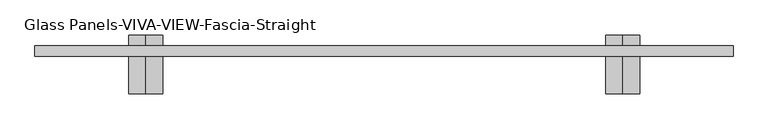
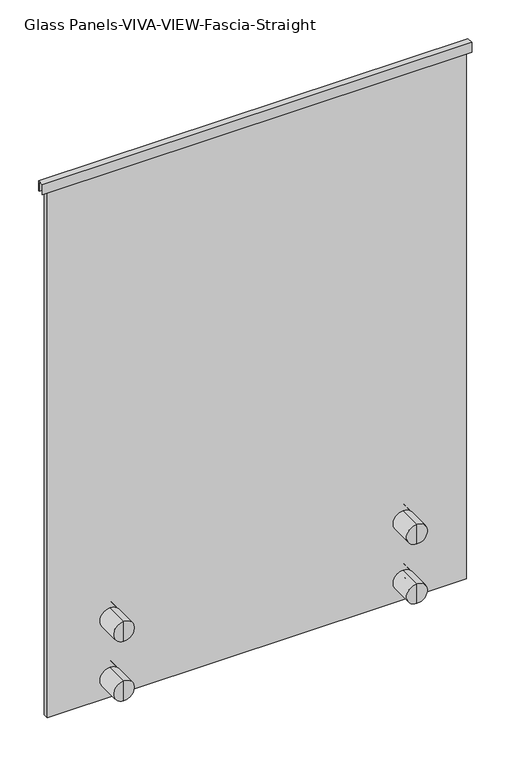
"""IFC4 building model written with IfcOpenShell, lengths in millimetres: railing geometry, Glass Panels-VIVA-VIEW-Fascia-Straight."""

from ifc_helpers import new_model, si_unit, frame, origin, place, context, project, spatial, polyline, circle_curve, outline, extrude, source, transform, mapped, element, save
from ifc_brep_helpers import plane_surface, cylinder_surface, advanced_brep


def glass_panels_viva_view_fascia_straight_26923121(model_context):
    return source(origin(), model_context, "Body", "SolidModel", [
        extrude(outline(polyline([(-1461.4844585, 4140.2), (-1445.6094585, 4140.2), (-1445.6094585, 4114.8), (-1447.1969585, 4114.8), (-1447.1969585, 4138.6125), (-1459.8969585, 4138.6125), (-1459.8969585, 4114.8), (-1461.4844585, 4114.8), (-1461.4844585, 4140.2)])), frame((37756.3266433, 0.0, 0.0), z_axis=(1.0, 0.0, 0.0), x_axis=(0.0, 1.0, 0.0)), (0.0, 0.0, 1.0), 1041.4),
        advanced_brep(
        [(37921.8096899, -1429.7347524, 2794.0), (37921.8096899, -1429.7347524, 2819.4), (37921.8096899, -1429.7347524, 2844.8), (37921.8096899, -1447.1972524, 2794.0), (37921.8096899, -1447.1972524, 2844.8), (37921.8096899, -1447.1972524, 2813.685), (37921.8096899, -1447.1972524, 2825.115), (37921.8096899, -1459.8972524, 2813.685), (37921.8096899, -1459.8972524, 2825.115), (37921.8096899, -1459.8972524, 2794.0), (37921.8096899, -1459.8972524, 2844.8), (37921.8096899, -1517.0471054, 2794.0), (37921.8096899, -1517.0471054, 2844.8), (37921.8096899, -1517.0471054, 2819.4)],
        [
            (0, 1),
            (1, 2),
            (2, 0, circle_curve(frame((37921.8096899, -1429.7347524, 2819.4), z_axis=(0.0, 1.0, 0.0), x_axis=(0.0, 0.0, 1.0)), 25.4)),
            (0, 2, circle_curve(frame((37921.8096899, -1429.7347524, 2819.4), z_axis=(0.0, 1.0, 0.0), x_axis=(0.0, 0.0, 1.0)), 25.4)),
            (3, 0),
            (2, 4),
            (4, 3, circle_curve(frame((37921.8096899, -1447.1972524, 2819.4), z_axis=(0.0, 1.0, 0.0), x_axis=(0.0, 0.0, 1.0)), 25.4)),
            (3, 4, circle_curve(frame((37921.8096899, -1447.1972524, 2819.4), z_axis=(0.0, 1.0, 0.0), x_axis=(0.0, 0.0, 1.0)), 25.4)),
            (5, 3),
            (4, 6),
            (6, 5, circle_curve(frame((37921.8096899, -1447.1972524, 2819.4), z_axis=(0.0, 1.0, 0.0), x_axis=(0.0, 0.0, 1.0)), 5.715)),
            (5, 6, circle_curve(frame((37921.8096899, -1447.1972524, 2819.4), z_axis=(0.0, 1.0, 0.0), x_axis=(0.0, 0.0, 1.0)), 5.715)),
            (7, 5),
            (6, 8),
            (8, 7, circle_curve(frame((37921.8096899, -1459.8972524, 2819.4), z_axis=(0.0, 1.0, 0.0), x_axis=(0.0, 0.0, 1.0)), 5.715)),
            (7, 8, circle_curve(frame((37921.8096899, -1459.8972524, 2819.4), z_axis=(0.0, 1.0, 0.0), x_axis=(0.0, 0.0, 1.0)), 5.715)),
            (9, 7),
            (8, 10),
            (10, 9, circle_curve(frame((37921.8096899, -1459.8972524, 2819.4), z_axis=(0.0, 1.0, 0.0), x_axis=(0.0, 0.0, 1.0)), 25.4)),
            (9, 10, circle_curve(frame((37921.8096899, -1459.8972524, 2819.4), z_axis=(0.0, 1.0, 0.0), x_axis=(0.0, 0.0, 1.0)), 25.4)),
            (11, 9),
            (10, 12),
            (12, 11, circle_curve(frame((37921.8096899, -1517.0471054, 2819.4), z_axis=(0.0, 1.0, 0.0), x_axis=(0.0, 0.0, 1.0)), 25.4)),
            (11, 12, circle_curve(frame((37921.8096899, -1517.0471054, 2819.4), z_axis=(0.0, 1.0, 0.0), x_axis=(0.0, 0.0, 1.0)), 25.4)),
            (13, 11),
            (12, 13),
        ],
        [
            plane_surface(frame((37921.8096899, -1429.7347524, 2819.4), z_axis=(0.0, 1.0, 0.0), x_axis=(0.0, 0.0, 1.0))),
            cylinder_surface(frame((37921.8096899, -1361.4721054, 2819.4), z_axis=(0.0, -1.0, 0.0), x_axis=(0.0, 0.0, 1.0)), 25.4),
            plane_surface(frame((37921.8096899, -1447.1972524, 2819.4), z_axis=(0.0, -1.0, 0.0), x_axis=(0.0, 0.0, 1.0))),
            cylinder_surface(frame((37921.8096899, -1361.4721054, 2819.4), z_axis=(0.0, -1.0, 0.0), x_axis=(0.0, 0.0, 1.0)), 5.715),
            plane_surface(frame((37921.8096899, -1459.8972524, 2819.4), z_axis=(0.0, 1.0, 0.0), x_axis=(0.0, 0.0, 1.0))),
            plane_surface(frame((37921.8096899, -1517.0471054, 2819.4), z_axis=(0.0, -1.0, 0.0), x_axis=(0.0, 0.0, 1.0))),
        ],
        [
            (0, [[1, 2, 3]]),
            (0, [[-2, -1, 4]]),
            (1, [[5, -3, 6, 7]]),
            (1, [[-6, -4, -5, 8]]),
            (2, [[9, -7, 10, 11]]),
            (2, [[-10, -8, -9, 12]]),
            (3, [[13, -11, 14, 15]]),
            (3, [[-14, -12, -13, 16]]),
            (4, [[17, -15, 18, 19]]),
            (4, [[-18, -16, -17, 20]]),
            (1, [[21, -19, 22, 23]]),
            (1, [[-22, -20, -21, 24]]),
            (5, [[25, -23, 26]]),
            (5, [[-26, -24, -25]]),
        ],
    ),
        advanced_brep(
        [(37921.8096899, -1447.1972524, 2966.085), (37921.8096899, -1447.1972524, 2946.4), (37921.8096899, -1447.1972524, 2997.2), (37921.8096899, -1447.1972524, 2977.515), (37921.8096899, -1459.8972524, 2966.085), (37921.8096899, -1459.8972524, 2977.515), (37921.8096899, -1459.8972524, 2946.4), (37921.8096899, -1459.8972524, 2997.2), (37921.8096899, -1517.0471054, 2946.4), (37921.8096899, -1517.0471054, 2997.2), (37921.8096899, -1517.0471054, 2971.8), (37921.8096899, -1429.7347524, 2946.4), (37921.8096899, -1429.7347524, 2971.8), (37921.8096899, -1429.7347524, 2997.2)],
        [
            (0, 1),
            (1, 2, circle_curve(frame((37921.8096899, -1447.1972524, 2971.8), z_axis=(0.0, -1.0, 0.0), x_axis=(0.0, 0.0, 1.0)), 25.4)),
            (2, 3),
            (3, 0, circle_curve(frame((37921.8096899, -1447.1972524, 2971.8), z_axis=(0.0, 1.0, 0.0), x_axis=(0.0, 0.0, 1.0)), 5.715)),
            (2, 1, circle_curve(frame((37921.8096899, -1447.1972524, 2971.8), z_axis=(0.0, -1.0, 0.0), x_axis=(0.0, 0.0, 1.0)), 25.4)),
            (0, 3, circle_curve(frame((37921.8096899, -1447.1972524, 2971.8), z_axis=(0.0, 1.0, 0.0), x_axis=(0.0, 0.0, 1.0)), 5.715)),
            (4, 0),
            (3, 5),
            (5, 4, circle_curve(frame((37921.8096899, -1459.8972524, 2971.8), z_axis=(0.0, 1.0, 0.0), x_axis=(0.0, 0.0, 1.0)), 5.715)),
            (4, 5, circle_curve(frame((37921.8096899, -1459.8972524, 2971.8), z_axis=(0.0, 1.0, 0.0), x_axis=(0.0, 0.0, 1.0)), 5.715)),
            (6, 4),
            (5, 7),
            (7, 6, circle_curve(frame((37921.8096899, -1459.8972524, 2971.8), z_axis=(0.0, 1.0, 0.0), x_axis=(0.0, 0.0, 1.0)), 25.4)),
            (6, 7, circle_curve(frame((37921.8096899, -1459.8972524, 2971.8), z_axis=(0.0, 1.0, 0.0), x_axis=(0.0, 0.0, 1.0)), 25.4)),
            (8, 6),
            (7, 9),
            (9, 8, circle_curve(frame((37921.8096899, -1517.0471054, 2971.8), z_axis=(0.0, 1.0, 0.0), x_axis=(0.0, 0.0, 1.0)), 25.4)),
            (8, 9, circle_curve(frame((37921.8096899, -1517.0471054, 2971.8), z_axis=(0.0, 1.0, 0.0), x_axis=(0.0, 0.0, 1.0)), 25.4)),
            (10, 8),
            (9, 10),
            (11, 12),
            (12, 13),
            (13, 11, circle_curve(frame((37921.8096899, -1429.7347524, 2971.8), z_axis=(0.0, 1.0, 0.0), x_axis=(0.0, 0.0, 1.0)), 25.4)),
            (11, 13, circle_curve(frame((37921.8096899, -1429.7347524, 2971.8), z_axis=(0.0, 1.0, 0.0), x_axis=(0.0, 0.0, 1.0)), 25.4)),
            (1, 11),
            (13, 2),
        ],
        [
            plane_surface(frame((37921.8096899, -1447.1972524, 2971.8), z_axis=(0.0, -1.0, 0.0), x_axis=(0.0, 0.0, 1.0))),
            cylinder_surface(frame((37921.8096899, -1361.4721054, 2971.8), z_axis=(0.0, -1.0, 0.0), x_axis=(0.0, 0.0, 1.0)), 5.715),
            plane_surface(frame((37921.8096899, -1459.8972524, 2971.8), z_axis=(0.0, 1.0, 0.0), x_axis=(0.0, 0.0, 1.0))),
            cylinder_surface(frame((37921.8096899, -1361.4721054, 2971.8), z_axis=(0.0, -1.0, 0.0), x_axis=(0.0, 0.0, 1.0)), 25.4),
            plane_surface(frame((37921.8096899, -1517.0471054, 2971.8), z_axis=(0.0, -1.0, 0.0), x_axis=(0.0, 0.0, 1.0))),
            plane_surface(frame((37921.8096899, -1429.7347524, 2971.8), z_axis=(0.0, 1.0, 0.0), x_axis=(0.0, 0.0, 1.0))),
        ],
        [
            (0, [[1, 2, 3, 4]]),
            (0, [[-3, 5, -1, 6]]),
            (1, [[7, -4, 8, 9]]),
            (1, [[-8, -6, -7, 10]]),
            (2, [[11, -9, 12, 13]]),
            (2, [[-12, -10, -11, 14]]),
            (3, [[15, -13, 16, 17]]),
            (3, [[-16, -14, -15, 18]]),
            (4, [[19, -17, 20]]),
            (4, [[-20, -18, -19]]),
            (5, [[21, 22, 23]]),
            (5, [[-22, -21, 24]]),
            (3, [[25, -23, 26, -2]]),
            (3, [[-26, -24, -25, -5]]),
        ],
    ),
        advanced_brep(
        [(38633.0096899, -1429.7347524, 2794.0), (38633.0096899, -1429.7347524, 2819.4), (38633.0096899, -1429.7347524, 2844.8), (38633.0096899, -1447.1972524, 2794.0), (38633.0096899, -1447.1972524, 2844.8), (38633.0096899, -1447.1972524, 2813.685), (38633.0096899, -1447.1972524, 2825.115), (38633.0096899, -1459.8972524, 2813.685), (38633.0096899, -1459.8972524, 2825.115), (38633.0096899, -1459.8972524, 2794.0), (38633.0096899, -1459.8972524, 2844.8), (38633.0096899, -1517.0471054, 2794.0), (38633.0096899, -1517.0471054, 2844.8), (38633.0096899, -1517.0471054, 2819.4)],
        [
            (0, 1),
            (1, 2),
            (2, 0, circle_curve(frame((38633.0096899, -1429.7347524, 2819.4), z_axis=(0.0, 1.0, 0.0), x_axis=(0.0, 0.0, 1.0)), 25.4)),
            (0, 2, circle_curve(frame((38633.0096899, -1429.7347524, 2819.4), z_axis=(0.0, 1.0, 0.0), x_axis=(0.0, 0.0, 1.0)), 25.4)),
            (3, 0),
            (2, 4),
            (4, 3, circle_curve(frame((38633.0096899, -1447.1972524, 2819.4), z_axis=(0.0, 1.0, 0.0), x_axis=(0.0, 0.0, 1.0)), 25.4)),
            (3, 4, circle_curve(frame((38633.0096899, -1447.1972524, 2819.4), z_axis=(0.0, 1.0, 0.0), x_axis=(0.0, 0.0, 1.0)), 25.4)),
            (5, 3),
            (4, 6),
            (6, 5, circle_curve(frame((38633.0096899, -1447.1972524, 2819.4), z_axis=(0.0, 1.0, 0.0), x_axis=(0.0, 0.0, 1.0)), 5.715)),
            (5, 6, circle_curve(frame((38633.0096899, -1447.1972524, 2819.4), z_axis=(0.0, 1.0, 0.0), x_axis=(0.0, 0.0, 1.0)), 5.715)),
            (7, 5),
            (6, 8),
            (8, 7, circle_curve(frame((38633.0096899, -1459.8972524, 2819.4), z_axis=(0.0, 1.0, 0.0), x_axis=(0.0, 0.0, 1.0)), 5.715)),
            (7, 8, circle_curve(frame((38633.0096899, -1459.8972524, 2819.4), z_axis=(0.0, 1.0, 0.0), x_axis=(0.0, 0.0, 1.0)), 5.715)),
            (9, 7),
            (8, 10),
            (10, 9, circle_curve(frame((38633.0096899, -1459.8972524, 2819.4), z_axis=(0.0, 1.0, 0.0), x_axis=(0.0, 0.0, 1.0)), 25.4)),
            (9, 10, circle_curve(frame((38633.0096899, -1459.8972524, 2819.4), z_axis=(0.0, 1.0, 0.0), x_axis=(0.0, 0.0, 1.0)), 25.4)),
            (11, 9),
            (10, 12),
            (12, 11, circle_curve(frame((38633.0096899, -1517.0471054, 2819.4), z_axis=(0.0, 1.0, 0.0), x_axis=(0.0, 0.0, 1.0)), 25.4)),
            (11, 12, circle_curve(frame((38633.0096899, -1517.0471054, 2819.4), z_axis=(0.0, 1.0, 0.0), x_axis=(0.0, 0.0, 1.0)), 25.4)),
            (13, 11),
            (12, 13),
        ],
        [
            plane_surface(frame((38633.0096899, -1429.7347524, 2819.4), z_axis=(0.0, 1.0, 0.0), x_axis=(0.0, 0.0, 1.0))),
            cylinder_surface(frame((38633.0096899, -1361.4721054, 2819.4), z_axis=(0.0, -1.0, 0.0), x_axis=(0.0, 0.0, 1.0)), 25.4),
            plane_surface(frame((38633.0096899, -1447.1972524, 2819.4), z_axis=(0.0, -1.0, 0.0), x_axis=(0.0, 0.0, 1.0))),
            cylinder_surface(frame((38633.0096899, -1361.4721054, 2819.4), z_axis=(0.0, -1.0, 0.0), x_axis=(0.0, 0.0, 1.0)), 5.715),
            plane_surface(frame((38633.0096899, -1459.8972524, 2819.4), z_axis=(0.0, 1.0, 0.0), x_axis=(0.0, 0.0, 1.0))),
            plane_surface(frame((38633.0096899, -1517.0471054, 2819.4), z_axis=(0.0, -1.0, 0.0), x_axis=(0.0, 0.0, 1.0))),
        ],
        [
            (0, [[1, 2, 3]]),
            (0, [[-2, -1, 4]]),
            (1, [[5, -3, 6, 7]]),
            (1, [[-6, -4, -5, 8]]),
            (2, [[9, -7, 10, 11]]),
            (2, [[-10, -8, -9, 12]]),
            (3, [[13, -11, 14, 15]]),
            (3, [[-14, -12, -13, 16]]),
            (4, [[17, -15, 18, 19]]),
            (4, [[-18, -16, -17, 20]]),
            (1, [[21, -19, 22, 23]]),
            (1, [[-22, -20, -21, 24]]),
            (5, [[25, -23, 26]]),
            (5, [[-26, -24, -25]]),
        ],
    ),
        advanced_brep(
        [(38633.0096899, -1447.1972524, 2966.085), (38633.0096899, -1447.1972524, 2946.4), (38633.0096899, -1447.1972524, 2997.2), (38633.0096899, -1447.1972524, 2977.515), (38633.0096899, -1459.8972524, 2966.085), (38633.0096899, -1459.8972524, 2977.515), (38633.0096899, -1459.8972524, 2946.4), (38633.0096899, -1459.8972524, 2997.2), (38633.0096899, -1517.0471054, 2946.4), (38633.0096899, -1517.0471054, 2997.2), (38633.0096899, -1517.0471054, 2971.8), (38633.0096899, -1429.7347524, 2946.4), (38633.0096899, -1429.7347524, 2971.8), (38633.0096899, -1429.7347524, 2997.2)],
        [
            (0, 1),
            (1, 2, circle_curve(frame((38633.0096899, -1447.1972524, 2971.8), z_axis=(0.0, -1.0, 0.0), x_axis=(0.0, 0.0, 1.0)), 25.4)),
            (2, 3),
            (3, 0, circle_curve(frame((38633.0096899, -1447.1972524, 2971.8), z_axis=(0.0, 1.0, 0.0), x_axis=(0.0, 0.0, 1.0)), 5.715)),
            (2, 1, circle_curve(frame((38633.0096899, -1447.1972524, 2971.8), z_axis=(0.0, -1.0, 0.0), x_axis=(0.0, 0.0, 1.0)), 25.4)),
            (0, 3, circle_curve(frame((38633.0096899, -1447.1972524, 2971.8), z_axis=(0.0, 1.0, 0.0), x_axis=(0.0, 0.0, 1.0)), 5.715)),
            (4, 0),
            (3, 5),
            (5, 4, circle_curve(frame((38633.0096899, -1459.8972524, 2971.8), z_axis=(0.0, 1.0, 0.0), x_axis=(0.0, 0.0, 1.0)), 5.715)),
            (4, 5, circle_curve(frame((38633.0096899, -1459.8972524, 2971.8), z_axis=(0.0, 1.0, 0.0), x_axis=(0.0, 0.0, 1.0)), 5.715)),
            (6, 4),
            (5, 7),
            (7, 6, circle_curve(frame((38633.0096899, -1459.8972524, 2971.8), z_axis=(0.0, 1.0, 0.0), x_axis=(0.0, 0.0, 1.0)), 25.4)),
            (6, 7, circle_curve(frame((38633.0096899, -1459.8972524, 2971.8), z_axis=(0.0, 1.0, 0.0), x_axis=(0.0, 0.0, 1.0)), 25.4)),
            (8, 6),
            (7, 9),
            (9, 8, circle_curve(frame((38633.0096899, -1517.0471054, 2971.8), z_axis=(0.0, 1.0, 0.0), x_axis=(0.0, 0.0, 1.0)), 25.4)),
            (8, 9, circle_curve(frame((38633.0096899, -1517.0471054, 2971.8), z_axis=(0.0, 1.0, 0.0), x_axis=(0.0, 0.0, 1.0)), 25.4)),
            (10, 8),
            (9, 10),
            (11, 12),
            (12, 13),
            (13, 11, circle_curve(frame((38633.0096899, -1429.7347524, 2971.8), z_axis=(0.0, 1.0, 0.0), x_axis=(0.0, 0.0, 1.0)), 25.4)),
            (11, 13, circle_curve(frame((38633.0096899, -1429.7347524, 2971.8), z_axis=(0.0, 1.0, 0.0), x_axis=(0.0, 0.0, 1.0)), 25.4)),
            (1, 11),
            (13, 2),
        ],
        [
            plane_surface(frame((38633.0096899, -1447.1972524, 2971.8), z_axis=(0.0, -1.0, 0.0), x_axis=(0.0, 0.0, 1.0))),
            cylinder_surface(frame((38633.0096899, -1361.4721054, 2971.8), z_axis=(0.0, -1.0, 0.0), x_axis=(0.0, 0.0, 1.0)), 5.715),
            plane_surface(frame((38633.0096899, -1459.8972524, 2971.8), z_axis=(0.0, 1.0, 0.0), x_axis=(0.0, 0.0, 1.0))),
            cylinder_surface(frame((38633.0096899, -1361.4721054, 2971.8), z_axis=(0.0, -1.0, 0.0), x_axis=(0.0, 0.0, 1.0)), 25.4),
            plane_surface(frame((38633.0096899, -1517.0471054, 2971.8), z_axis=(0.0, -1.0, 0.0), x_axis=(0.0, 0.0, 1.0))),
            plane_surface(frame((38633.0096899, -1429.7347524, 2971.8), z_axis=(0.0, 1.0, 0.0), x_axis=(0.0, 0.0, 1.0))),
        ],
        [
            (0, [[1, 2, 3, 4]]),
            (0, [[-3, 5, -1, 6]]),
            (1, [[7, -4, 8, 9]]),
            (1, [[-8, -6, -7, 10]]),
            (2, [[11, -9, 12, 13]]),
            (2, [[-12, -10, -11, 14]]),
            (3, [[15, -13, 16, 17]]),
            (3, [[-16, -14, -15, 18]]),
            (4, [[19, -17, 20]]),
            (4, [[-20, -18, -19]]),
            (5, [[21, 22, 23]]),
            (5, [[-22, -21, 24]]),
            (3, [[25, -23, 26, -2]]),
            (3, [[-26, -24, -25, -5]]),
        ],
    ),
        extrude(outline(polyline([(37769.4096899, -1459.8969585), (37769.4096899, -1447.1969585), (38785.4096899, -1447.1969585), (38785.4096899, -1459.8969585), (37769.4096899, -1459.8969585)])), frame((0.0, 0.0, 2768.6), z_axis=(0.0, 0.0, 1.0), x_axis=(1.0, 0.0, 0.0)), (0.0, 0.0, 1.0), 1370.0125),
    ])


if __name__ == "__main__":
    model = new_model("IFC4")
    model_context = context("Model", 3, world=origin())
    ifc_project = project(units=[si_unit("LENGTHUNIT", "METRE", prefix="MILLI")], contexts=[model_context])
    site = spatial("IfcSite", under=ifc_project)
    building = spatial("IfcBuilding", under=site)
    placement = place(None, origin())
    glass_panels_viva_view_fascia_straight_shape = glass_panels_viva_view_fascia_straight_26923121(model_context)
    element("IfcRailing", 1, ObjectType="Glass Panels-VIVA-VIEW-Fascia-Straight", at=placement, inside=building, context=model_context, shape_type="MappedRepresentation", body=[
        mapped(glass_panels_viva_view_fascia_straight_shape, transform((0.0, 0.0, 0.0), x_axis=(1.0, 0.0, 0.0), y_axis=(0.0, 1.0, 0.0), z_axis=(0.0, 0.0, 1.0))),
    ])
    save(model, "model.ifc")
